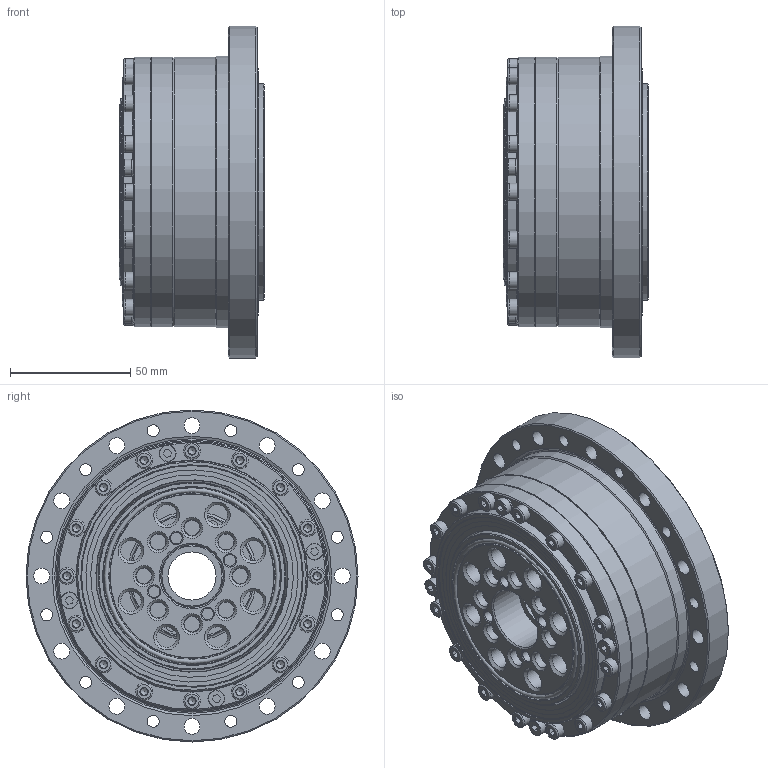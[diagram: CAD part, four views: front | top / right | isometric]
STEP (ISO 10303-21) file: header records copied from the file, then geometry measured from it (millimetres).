
FILE_DESCRIPTION(/* description */ (''),/* implementation_level */ '2;1');
FILE_NAME(/* name */ 'Getriebeset_CTG_Plus_BG81_HS.stp',/* time_stamp */ '2026-03-10T14:16:34+01:00',/* author */ (''),/* organization */ (''),/* preprocessor_version */ 'ST-DEVELOPER v19.4',/* originating_system */ 'SIEMENS PLM Software NX2212.9120',/* authorisation */ '');
FILE_SCHEMA (('AUTOMOTIVE_DESIGN { 1 0 10303 214 3 1 1 1 }'));
Length unit declared in the file: millimetre
Products named in the file (1): Getriebeset_CTG_Plus_BG81_HS
Bounding box: 60.38 x 138 x 138 mm (x, y, z)
Volume: 403221 mm3; surface area: 224182 mm2
Topology: 108 solids, 109 shells, 1377 faces, 2986 edges, 1842 vertices
Faces by surface type: plane 490, cylinder 344, cone 341, torus 154, sphere 27, bspline 21
Full cylindrical faces by diameter (mm): 3.3 x20, 4 x20, 4.3 x2, 4.5 x8, 4.6 x36, 4.8 x4, 5 x16, 6 x48, 6.6 x12, 6.7 x4, 6.8 x8, 7 x20, 8 x8, 8.5 x8, 9 x24, 13 x8, 20 x1, 26 x4, 40 x1, 52 x2, 55 x2, 59 x2, 63 x1, 63.3 x2, 68.4 x1, 69.508 x1, 71 x1, 74.1 x1, 75.5 x2, 78 x2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
Entity records: 35655 total; most frequent: CARTESIAN_POINT 8715, DIRECTION 5624, ORIENTED_EDGE 3922, AXIS2_PLACEMENT_3D 2594, EDGE_LOOP 2385, EDGE_CURVE 1961, FACE_BOUND 1925, VERTEX_POINT 1613
